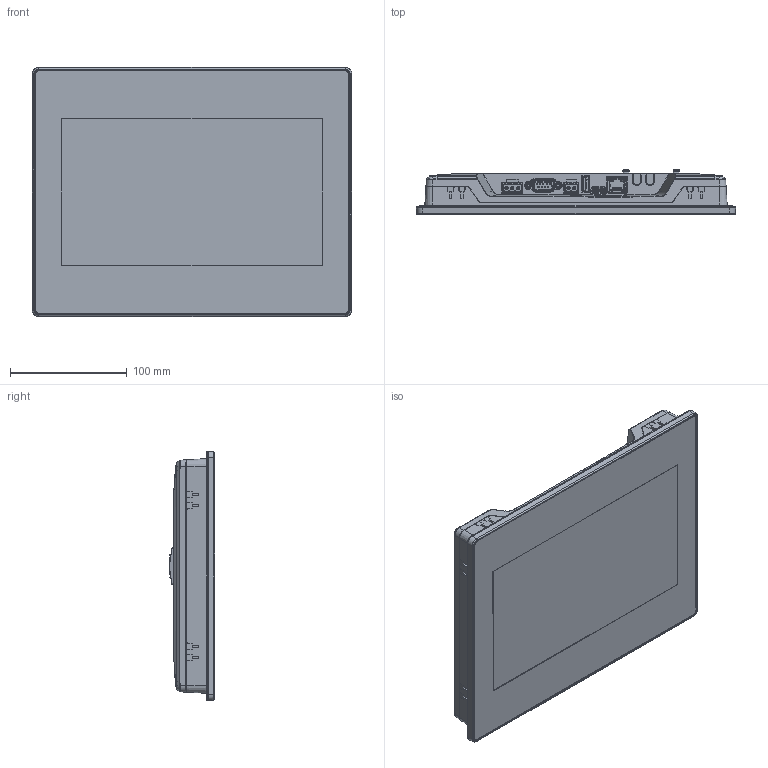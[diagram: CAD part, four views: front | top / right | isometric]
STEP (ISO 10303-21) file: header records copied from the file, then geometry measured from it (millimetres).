
FILE_DESCRIPTION((''),'2;1');
FILE_NAME('FE6400CW_1_1','2024-07-04T10:02:38',('weixf_pc'),(''),'CREO PARAMETRIC BY PTC INC, 2016510','CREO PARAMETRIC BY PTC INC, 2016510','');
FILE_SCHEMA(('CONFIG_CONTROL_DESIGN'));
Products named in the file (1): FE6400CW_1_1
Bounding box: 272.94 x 38.72 x 212.94 mm (x, y, z)
Volume: 1393676.6 mm3; surface area: 270327.9 mm2
Topology: 1 solids, 29 shells, 4165 faces, 11484 edges, 7407 vertices
Faces by surface type: plane 2213, cylinder 961, bspline 563, torus 188, cone 113, extrusion 58, sphere 57, revolution 12
Entity records: 166823 total; most frequent: CARTESIAN_POINT 67442, ORIENTED_EDGE 22854, DIRECTION 17298, EDGE_CURVE 11427, VERTEX_POINT 7407, VECTOR 6738, LINE 6680, AXIS2_PLACEMENT_3D 5274
